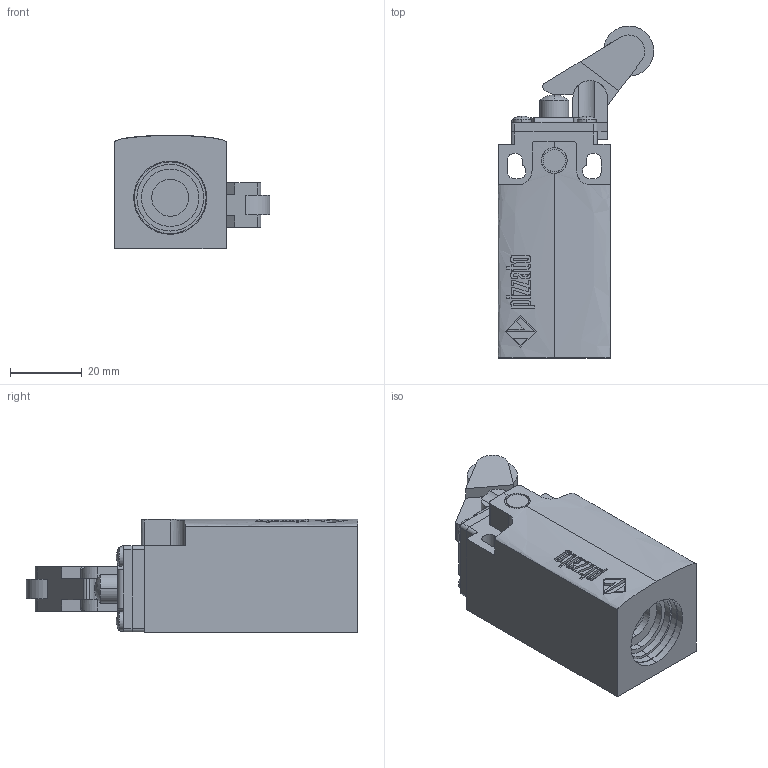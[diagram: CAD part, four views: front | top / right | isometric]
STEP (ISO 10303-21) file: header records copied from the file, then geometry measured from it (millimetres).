
FILE_DESCRIPTION (( 'STEP AP203' ), '1' );
FILE_NAME ('ZF_STEP_FR_x05.STEP', '2024-02-26T08:50:46', ( '' ), ( '' ), 'SwSTEP 2.0', 'SolidWorks 2023', '' );
FILE_SCHEMA (( 'CONFIG_CONTROL_DESIGN' ));
Length unit declared in the file: millimetre
Products named in the file (7): Pizzato_Supporto_TE02; ZF_STEP_FR_x05; ZF_STEP_VF_TE05; Pizzato_LE05; Pizzato_Pulsante_TE01; Pizzato_Custodia_FR_3dweb
Assembly tree (6 placements, depth 3):
  ZF_STEP_FR_x05
    Pizzato_Custodia_FR_3dweb
      Pizzato_Custodia_FR_3dweb
    ZF_STEP_VF_TE05
      Pizzato_Supporto_TE02
      Pizzato_LE05
      Pizzato_Pulsante_TE01
Bounding box: 43.33 x 92.55 x 31.6 mm (x, y, z)
Volume: 60730.6 mm3; surface area: 16420 mm2
Topology: 4 solids, 4 shells, 450 faces, 1186 edges, 787 vertices
Faces by surface type: plane 259, bspline 114, cylinder 67, sphere 10
Entity records: 18507 total; most frequent: CARTESIAN_POINT 7434, ORIENTED_EDGE 2372, DIRECTION 1724, EDGE_CURVE 1186, VERTEX_POINT 787, LINE 750, VECTOR 750, EDGE_LOOP 501
